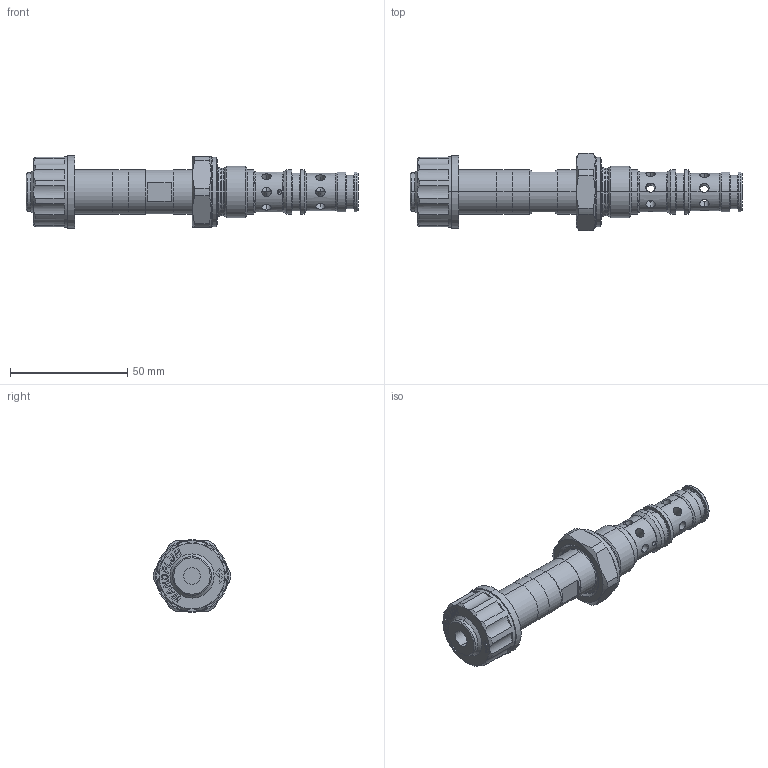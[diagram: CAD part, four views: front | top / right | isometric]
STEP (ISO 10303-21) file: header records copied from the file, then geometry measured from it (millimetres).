
FILE_DESCRIPTION (( 'STEP AP214' ), '1' );
FILE_NAME ('QDPPM22.STEP', '2017-03-20T07:07:19', ( '' ), ( '' ), 'SwSTEP 2.0', 'SolidWorks 2016', '' );
FILE_SCHEMA (( 'AUTOMOTIVE_DESIGN' ));
Length unit declared in the file: millimetre
Products named in the file (1): QDPPM22
Bounding box: 141.6 x 32.98 x 31 mm (x, y, z)
Volume: 46895.5 mm3; surface area: 15594.8 mm2
Topology: 2 solids, 2 shells, 362 faces, 884 edges, 543 vertices
Faces by surface type: plane 149, cylinder 109, cone 60, torus 28, bspline 16
Entity records: 16354 total; most frequent: CARTESIAN_POINT 3948, ORIENTED_EDGE 1768, DIRECTION 1701, EDGE_CURVE 884, AXIS2_PLACEMENT_3D 614, VERTEX_POINT 543, VECTOR 473, LINE 473
